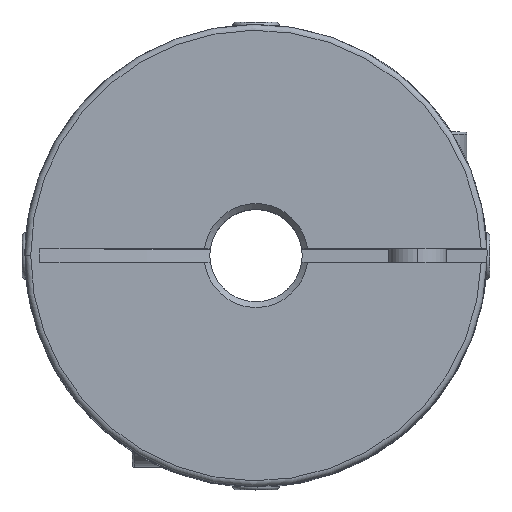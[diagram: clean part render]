
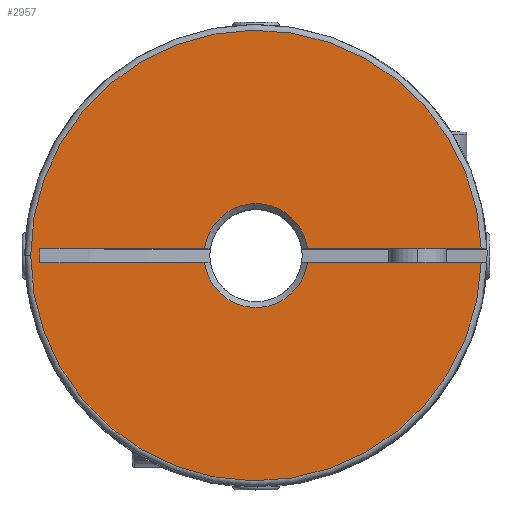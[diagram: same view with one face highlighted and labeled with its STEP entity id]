
A CAD part, top view. The second image highlights one B-rep face of the part: STEP entity #2957.
In plain terms, the highlighted planar face has unit normal (0, 0, 1).
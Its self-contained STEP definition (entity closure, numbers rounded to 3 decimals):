
#1411 = VECTOR ( 'NONE', #9339, 1000. ) ;
#1422 = AXIS2_PLACEMENT_3D ( 'NONE', #9349, #9350, #9351 ) ;
#1566 = AXIS2_PLACEMENT_3D ( 'NONE', #9616, #9617, #9618 ) ;
#1736 = AXIS2_PLACEMENT_3D ( 'NONE', #8445, #8446, #8447 ) ;
#1778 = VECTOR ( 'NONE', #5732, 1000. ) ;
#1817 = VECTOR ( 'NONE', #5664, 1000. ) ;
#1927 = VECTOR ( 'NONE', #10306, 1000. ) ;
#2066 = AXIS2_PLACEMENT_3D ( 'NONE', #5994, #5998, #5999 ) ;
#2136 = AXIS2_PLACEMENT_3D ( 'NONE', #7555, #7556, #7557 ) ;
#2145 = VECTOR ( 'NONE', #5541, 1000. ) ;
#2168 = FACE_OUTER_BOUND ( 'NONE', #11816, .T. ) ;
#2443 = EDGE_CURVE ( 'NONE', #12236, #12234, #5539, .T. ) ;
#2467 = EDGE_CURVE ( 'NONE', #12229, #12236, #5662, .T. ) ;
#2486 = EDGE_CURVE ( 'NONE', #12547, #12230, #5730, .T. ) ;
#2540 = EDGE_CURVE ( 'NONE', #12547, #12505, #14036, .T. ) ;
#2683 = EDGE_CURVE ( 'NONE', #12231, #12232, #9337, .T. ) ;
#2687 = EDGE_CURVE ( 'NONE', #12505, #12231, #14109, .T. ) ;
#2727 = EDGE_CURVE ( 'NONE', #12232, #12233, #14126, .T. ) ;
#2957 = ADVANCED_FACE ( 'NONE', ( #2168 ), #8429, .T. ) ;
#3021 = EDGE_CURVE ( 'NONE', #12229, #12230, #14228, .T. ) ;
#3071 = EDGE_CURVE ( 'NONE', #12233, #12234, #10304, .T. ) ;
#3550 = CARTESIAN_POINT ( 'NONE',  ( -4.463, 0.575, 22.8 ) ) ;
#3551 = CARTESIAN_POINT ( 'NONE',  ( 4.463, 0.575, 22.8 ) ) ;
#3552 = CARTESIAN_POINT ( 'NONE',  ( 19.492, -0.575, 22.8 ) ) ;
#3553 = CARTESIAN_POINT ( 'NONE',  ( 4.463, -0.575, 22.8 ) ) ;
#3554 = CARTESIAN_POINT ( 'NONE',  ( -4.463, -0.575, 22.8 ) ) ;
#3555 = CARTESIAN_POINT ( 'NONE',  ( -18.7, -0.575, 22.8 ) ) ;
#3556 = CARTESIAN_POINT ( 'NONE',  ( -18.7, 0.575, 22.8 ) ) ;
#3625 = CARTESIAN_POINT ( 'NONE',  ( -19.5, 0., 22.8 ) ) ;
#3667 = CARTESIAN_POINT ( 'NONE',  ( 19.492, 0.575, 22.8 ) ) ;
#5539 = LINE ( 'NONE', #5540, #2145 ) ;
#5540 = CARTESIAN_POINT ( 'NONE',  ( -18.7, 0.575, 22.8 ) ) ;
#5541 = DIRECTION ( 'NONE',  ( 0., -1., 0. ) ) ;
#5662 = LINE ( 'NONE', #5663, #1817 ) ;
#5663 = CARTESIAN_POINT ( 'NONE',  ( 19.5, 0.575, 22.8 ) ) ;
#5664 = DIRECTION ( 'NONE',  ( -1., 0., 0. ) ) ;
#5730 = LINE ( 'NONE', #5731, #1778 ) ;
#5731 = CARTESIAN_POINT ( 'NONE',  ( 19.5, 0.575, 22.8 ) ) ;
#5732 = DIRECTION ( 'NONE',  ( -1., 0., 0. ) ) ;
#5994 = CARTESIAN_POINT ( 'NONE',  ( 0., 0., 22.8 ) ) ;
#5998 = DIRECTION ( 'NONE',  ( 0., 0., 1. ) ) ;
#5999 = DIRECTION ( 'NONE',  ( -1., 0., 0. ) ) ;
#7555 = CARTESIAN_POINT ( 'NONE',  ( 0., 0., 22.8 ) ) ;
#7556 = DIRECTION ( 'NONE',  ( 0., 0., -1. ) ) ;
#7557 = DIRECTION ( 'NONE',  ( -1., 0., 0. ) ) ;
#8429 = PLANE ( 'NONE',  #1736 ) ;
#8445 = CARTESIAN_POINT ( 'NONE',  ( 0., 0., 22.8 ) ) ;
#8446 = DIRECTION ( 'NONE',  ( 0., 0., 1. ) ) ;
#8447 = DIRECTION ( 'NONE',  ( -1., 0., 0. ) ) ;
#9337 = LINE ( 'NONE', #9338, #1411 ) ;
#9338 = CARTESIAN_POINT ( 'NONE',  ( 19.5, -0.575, 22.8 ) ) ;
#9339 = DIRECTION ( 'NONE',  ( -1., 0., 0. ) ) ;
#9349 = CARTESIAN_POINT ( 'NONE',  ( 0., 0., 22.8 ) ) ;
#9350 = DIRECTION ( 'NONE',  ( 0., 0., 1. ) ) ;
#9351 = DIRECTION ( 'NONE',  ( -1., 0., 0. ) ) ;
#9616 = CARTESIAN_POINT ( 'NONE',  ( 0., 0., 22.8 ) ) ;
#9617 = DIRECTION ( 'NONE',  ( 0., 0., -1. ) ) ;
#9618 = DIRECTION ( 'NONE',  ( -1., 0., 0. ) ) ;
#10304 = LINE ( 'NONE', #10305, #1927 ) ;
#10305 = CARTESIAN_POINT ( 'NONE',  ( 19.5, -0.575, 22.8 ) ) ;
#10306 = DIRECTION ( 'NONE',  ( -1., 0., 0. ) ) ;
#11637 = ORIENTED_EDGE ( 'NONE', *, *, #3071, .T. ) ;
#11816 = EDGE_LOOP ( 'NONE', ( #12024, #11860, #11848, #11859, #12101, #11862, #11637, #11829, #11827 ) ) ;
#11827 = ORIENTED_EDGE ( 'NONE', *, *, #2467, .F. ) ;
#11829 = ORIENTED_EDGE ( 'NONE', *, *, #2443, .F. ) ;
#11848 = ORIENTED_EDGE ( 'NONE', *, *, #2540, .T. ) ;
#11859 = ORIENTED_EDGE ( 'NONE', *, *, #2687, .T. ) ;
#11860 = ORIENTED_EDGE ( 'NONE', *, *, #2486, .F. ) ;
#11862 = ORIENTED_EDGE ( 'NONE', *, *, #2727, .T. ) ;
#12024 = ORIENTED_EDGE ( 'NONE', *, *, #3021, .T. ) ;
#12101 = ORIENTED_EDGE ( 'NONE', *, *, #2683, .T. ) ;
#12229 = VERTEX_POINT ( 'NONE', #3550 ) ;
#12230 = VERTEX_POINT ( 'NONE', #3551 ) ;
#12231 = VERTEX_POINT ( 'NONE', #3552 ) ;
#12232 = VERTEX_POINT ( 'NONE', #3553 ) ;
#12233 = VERTEX_POINT ( 'NONE', #3554 ) ;
#12234 = VERTEX_POINT ( 'NONE', #3555 ) ;
#12236 = VERTEX_POINT ( 'NONE', #3556 ) ;
#12505 = VERTEX_POINT ( 'NONE', #3625 ) ;
#12547 = VERTEX_POINT ( 'NONE', #3667 ) ;
#14036 = CIRCLE ( 'NONE', #2066, 19.5 ) ;
#14109 = CIRCLE ( 'NONE', #1422, 19.5 ) ;
#14126 = CIRCLE ( 'NONE', #1566, 4.5 ) ;
#14228 = CIRCLE ( 'NONE', #2136, 4.5 ) ;
